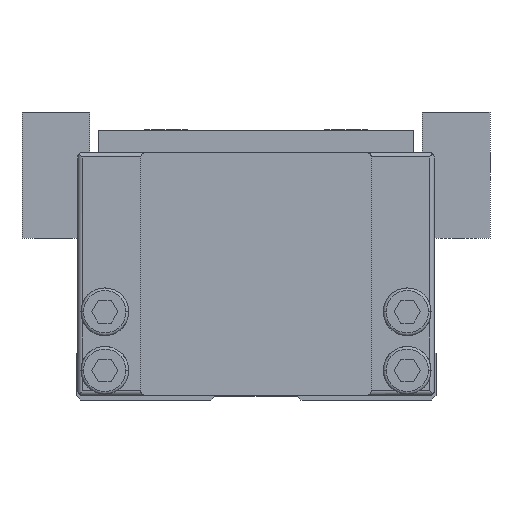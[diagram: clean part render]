
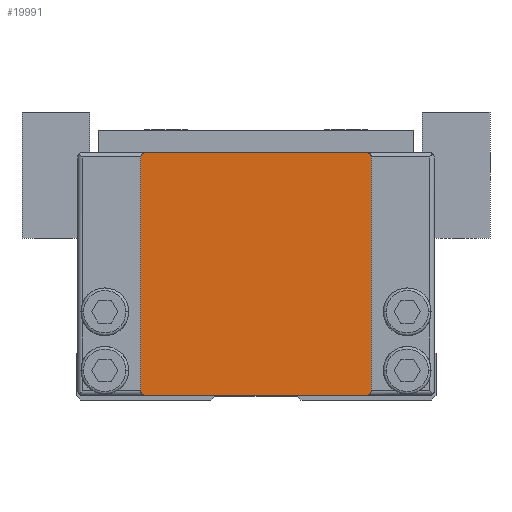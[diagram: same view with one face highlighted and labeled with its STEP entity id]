
A CAD part, front view. The second image highlights one B-rep face of the part: STEP entity #19991.
In plain terms, the highlighted planar face has unit normal (0, -1, 0).
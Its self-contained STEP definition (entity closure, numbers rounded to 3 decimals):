
#7609=EDGE_CURVE('',#7617,#13443,#21705,.T.);
#7617=VERTEX_POINT('',#21713);
#8957=VERTEX_POINT('',#23202);
#11003=EDGE_CURVE('',#15393,#16369,#25477,.T.);
#11875=EDGE_CURVE('',#8957,#7617,#26430,.T.);
#13443=VERTEX_POINT('',#28160);
#13649=VERTEX_POINT('',#28386);
#15393=VERTEX_POINT('',#30311);
#16307=EDGE_CURVE('',#13443,#15393,#31322,.T.);
#16369=VERTEX_POINT('',#31394);
#17025=EDGE_CURVE('',#18689,#20865,#32121,.T.);
#17871=EDGE_CURVE('',#20865,#13649,#33051,.T.);
#18689=VERTEX_POINT('',#33955);
#19257=EDGE_CURVE('',#16369,#18689,#34570,.T.);
#19977=EDGE_CURVE('',#13649,#8957,#35365,.T.);
#19991=ADVANCED_FACE('',(#35379),#35380,.T.);
#20865=VERTEX_POINT('',#36352);
#21705=CIRCLE('',#37474,0.5);
#21713=CARTESIAN_POINT('',(-12.8,0.0,27.0));
#23202=CARTESIAN_POINT('',(-12.8,0.0,1.0));
#25477=CIRCLE('',#43033,0.5);
#26430=LINE('',#44518,#44519);
#28160=CARTESIAN_POINT('',(-12.3,0.0,27.5));
#28386=CARTESIAN_POINT('',(-12.3,0.0,0.5));
#30311=CARTESIAN_POINT('',(12.3,0.0,27.5));
#31322=LINE('',#51839,#51840);
#31394=CARTESIAN_POINT('',(12.8,0.0,27.0));
#32121=CIRCLE('',#53025,0.5);
#33051=LINE('',#54372,#54373);
#33955=CARTESIAN_POINT('',(12.8,0.0,1.0));
#34570=LINE('',#56692,#56693);
#35365=CIRCLE('',#57870,0.5);
#35379=FACE_OUTER_BOUND('',#57894,.T.);
#35380=PLANE('',#57895);
#36352=CARTESIAN_POINT('',(12.3,0.0,0.5));
#37474=AXIS2_PLACEMENT_3D('',#60390,#60391,#60392);
#43033=AXIS2_PLACEMENT_3D('',#64816,#64817,#64818);
#44518=CARTESIAN_POINT('',(-12.8,0.0,27.0));
#44519=VECTOR('',#65822,1.0);
#51839=CARTESIAN_POINT('',(12.3,0.0,27.5));
#51840=VECTOR('',#71410,1.0);
#53025=AXIS2_PLACEMENT_3D('',#72358,#72359,#72360);
#54372=CARTESIAN_POINT('',(-12.3,0.0,0.5));
#54373=VECTOR('',#73369,1.0);
#56692=CARTESIAN_POINT('',(12.8,0.0,1.0));
#56693=VECTOR('',#74971,1.0);
#57870=AXIS2_PLACEMENT_3D('',#75855,#75856,#75857);
#57894=EDGE_LOOP('',(#75864,#75865,#75866,#75867,#75868,#75869,#75870,#75871));
#57895=AXIS2_PLACEMENT_3D('',#75872,#75873,#75874);
#60390=CARTESIAN_POINT('',(-12.3,0.0,27.0));
#60391=DIRECTION('',(0.0,1.0,-0.0));
#60392=DIRECTION('',(0.,0.0,1.0));
#64816=CARTESIAN_POINT('',(12.3,0.0,27.0));
#64817=DIRECTION('',(-0.0,1.0,0.0));
#64818=DIRECTION('',(1.0,0.0,0.));
#65822=DIRECTION('',(0.0,0.0,1.0));
#71410=DIRECTION('',(1.0,0.0,0.0));
#72358=CARTESIAN_POINT('',(12.3,0.0,1.));
#72359=DIRECTION('',(-0.0,1.0,0.0));
#72360=DIRECTION('',(0.0,0.0,-1.0));
#73369=DIRECTION('',(-1.0,0.0,-0.0));
#74971=DIRECTION('',(-0.0,0.0,-1.0));
#75855=CARTESIAN_POINT('',(-12.3,0.0,1.));
#75856=DIRECTION('',(0.0,1.0,-0.0));
#75857=DIRECTION('',(-1.0,0.0,0.));
#75864=ORIENTED_EDGE('',*,*,#11875,.F.);
#75865=ORIENTED_EDGE('',*,*,#19977,.F.);
#75866=ORIENTED_EDGE('',*,*,#17871,.F.);
#75867=ORIENTED_EDGE('',*,*,#17025,.F.);
#75868=ORIENTED_EDGE('',*,*,#19257,.F.);
#75869=ORIENTED_EDGE('',*,*,#11003,.F.);
#75870=ORIENTED_EDGE('',*,*,#16307,.F.);
#75871=ORIENTED_EDGE('',*,*,#7609,.F.);
#75872=CARTESIAN_POINT('',(0.,0.0,14.0));
#75873=DIRECTION('',(0.0,-1.0,0.0));
#75874=DIRECTION('',(1.0,0.0,0.0));
